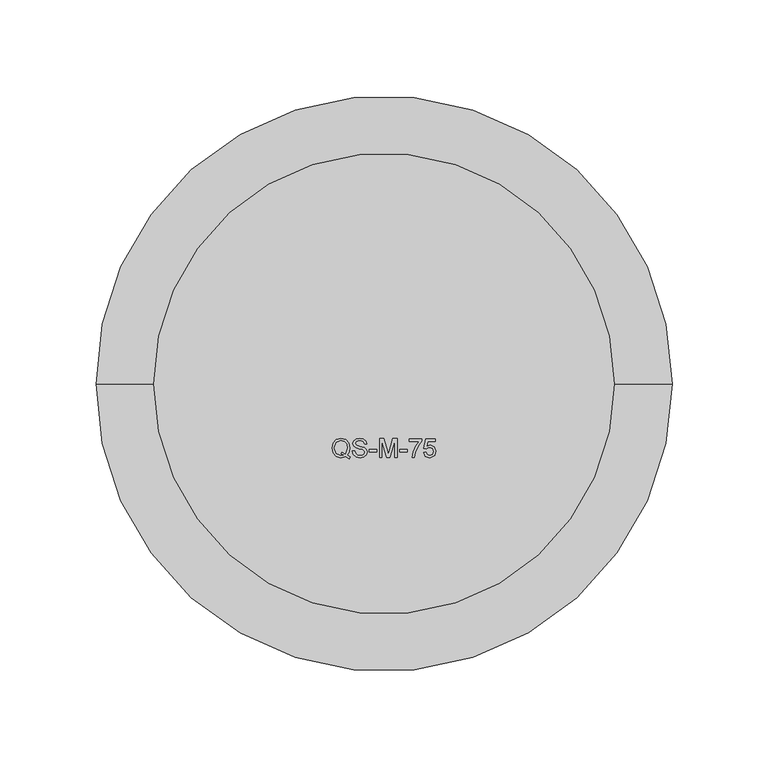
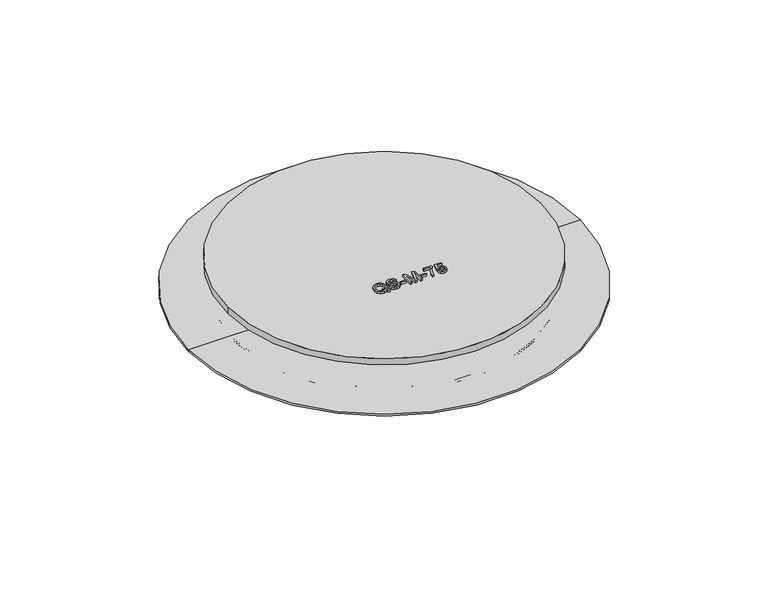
"""IFC4 building model written with IfcOpenShell, lengths in millimetres: sanitary terminal geometry, PAVCO_PVC QS Tragante : QS-M-75-260 Membrana."""

import ifcopenshell
import ifcopenshell.guid

model = None  # the IFC model being written
_history = None  # IfcOwnerHistory: only IFC2X3 demands one
_inside = {}  # id of a spatial element -> (the spatial element, [elements in it])
_under = {}  # id of a project, library or spatial element -> (it, [spatial elements below it])
_declared = {}  # id of a project -> (the project, [libraries it declares])
_typed = {}  # id of a type object -> (the type object, [elements of that type])
_made_of = {}  # id of a material, layer set ... -> (it, [elements and type objects made of it])


def new_model(schema):
    """Start an empty IFC model of exactly this schema.

    Asked for "IFC4X3", IfcOpenShell would pick the latest addendum, in which some entities
    have other attributes; the version numbers below select the first issue.
    IFC2X3 requires an IfcOwnerHistory on every rooted entity: one is made here for all.
    """
    global model, _history
    if schema == "IFC4X3":
        model = ifcopenshell.file(schema_version=(4, 3, 0, 0))
    else:
        model = ifcopenshell.file(schema=schema)
    _inside.clear()
    _under.clear()
    _declared.clear()
    _typed.clear()
    _made_of.clear()
    _history = None
    if model.schema == "IFC2X3":
        org = make("IfcOrganization", Name="unknown")
        user = make(
            "IfcPersonAndOrganization",
            ThePerson=make("IfcPerson", FamilyName="unknown"),
            TheOrganization=org,
        )
        app = make(
            "IfcApplication",
            ApplicationDeveloper=org,
            Version="unknown",
            ApplicationFullName="unknown",
            ApplicationIdentifier="unknown",
        )
        _history = make(
            "IfcOwnerHistory",
            OwningUser=user,
            OwningApplication=app,
            ChangeAction="ADDED",
            CreationDate=0,
        )
    return model


def make(cls, **values):
    """One entity of the class cls with the attributes given. An attribute that is None is left unset."""
    return model.create_entity(
        cls, **{name: value for name, value in values.items() if value is not None}
    )


def rooted(cls, **values):
    """An entity with a GlobalId (a new one), such as an element, a storey or a relation."""
    return make(cls, GlobalId=ifcopenshell.guid.new(), OwnerHistory=_history, **values)


def si_unit(unit_type, name, prefix=None):
    """IfcSIUnit, for example si_unit("LENGTHUNIT", "METRE", prefix="MILLI")."""
    return make("IfcSIUnit", UnitType=unit_type, Prefix=prefix, Name=name)


def assignment(units):
    """IfcUnitAssignment: the units of a project."""
    return None if units is None else make("IfcUnitAssignment", Units=units)


def point(xyz):
    """IfcCartesianPoint."""
    return None if xyz is None else make("IfcCartesianPoint", Coordinates=xyz)


def direction(xyz):
    """IfcDirection."""
    return None if xyz is None else make("IfcDirection", DirectionRatios=xyz)


def frame(location, z_axis=None, x_axis=None):
    """IfcAxis2Placement3D, a coordinate frame: its origin and axes. An axis left out is left unset."""
    return make(
        "IfcAxis2Placement3D",
        Location=point(location),
        Axis=direction(z_axis),
        RefDirection=direction(x_axis),
    )


def frame_2d(location, x_axis=None):
    """IfcAxis2Placement2D, a coordinate frame in the plane: its origin and x axis."""
    return make(
        "IfcAxis2Placement2D", Location=point(location), RefDirection=direction(x_axis)
    )


def origin():
    """The frame at (0, 0, 0) with its axes left unset."""
    return frame((0.0, 0.0, 0.0))


def origin_2d():
    """The frame at (0, 0) in the plane with its x axis left unset."""
    return frame_2d((0.0, 0.0))


def place(relative_to, where):
    """IfcLocalPlacement: puts the frame where relative to a parent placement (None: the world)."""
    return make(
        "IfcLocalPlacement", PlacementRelTo=relative_to, RelativePlacement=where
    )


def context(
    kind, dimensions, precision=None, world=None, true_north=None, identifier=None
):
    """IfcGeometricRepresentationContext, for example the 3D "Model" context."""
    return make(
        "IfcGeometricRepresentationContext",
        ContextIdentifier=identifier,
        ContextType=kind,
        CoordinateSpaceDimension=dimensions,
        Precision=precision,
        WorldCoordinateSystem=world,
        TrueNorth=true_north,
    )


def project(units=None, contexts=None):
    """IfcProject with its units and contexts."""
    return rooted(
        "IfcProject",
        Name="project",
        RepresentationContexts=contexts,
        UnitsInContext=assignment(units),
    )


def spatial(cls, under=None, at=None, **own):
    """A site, building, storey or space (cls), placed at a placement, below another one or the project."""
    s = rooted(cls, ObjectPlacement=at, **own)
    if under is not None:
        _under.setdefault(under.id(), (under, []))[1].append(s)
    return s


def polyline(points):
    """IfcPolyline through the points."""
    return make("IfcPolyline", Points=[point(p) for p in points])


def circle_curve(where, radius):
    """IfcCircle in the frame where."""
    return make("IfcCircle", Position=where, Radius=radius)


def ellipse_curve(where, semi_axis1, semi_axis2):
    """IfcEllipse in the frame where."""
    return make(
        "IfcEllipse", Position=where, SemiAxis1=semi_axis1, SemiAxis2=semi_axis2
    )


def trimmed(basis, trim1, trim2, sense, master):
    """IfcTrimmedCurve: the piece of a basis curve between two trims."""
    return make(
        "IfcTrimmedCurve",
        BasisCurve=basis,
        Trim1=trim1,
        Trim2=trim2,
        SenseAgreement=sense,
        MasterRepresentation=master,
    )


def segment(curve, same_sense, transition):
    """IfcCompositeCurveSegment."""
    return make(
        "IfcCompositeCurveSegment",
        Transition=transition,
        SameSense=same_sense,
        ParentCurve=curve,
    )


def composite_curve(segments, self_intersect=None):
    """IfcCompositeCurve: segments joined end to end."""
    return make("IfcCompositeCurve", Segments=segments, SelfIntersect=self_intersect)


def outline(outer, holes=None, kind="AREA"):
    """IfcArbitraryClosedProfileDef: a profile drawn as a closed curve; with holes, ...WithVoids."""
    if holes is None:
        return make("IfcArbitraryClosedProfileDef", ProfileType=kind, OuterCurve=outer)
    return make(
        "IfcArbitraryProfileDefWithVoids",
        ProfileType=kind,
        OuterCurve=outer,
        InnerCurves=holes,
    )


def extrude(swept, where, along, depth):
    """IfcExtrudedAreaSolid: the profile swept, set in the frame where, extruded along a direction by depth."""
    return make(
        "IfcExtrudedAreaSolid",
        SweptArea=swept,
        Position=where,
        ExtrudedDirection=direction(along),
        Depth=depth,
    )


def shape(context_of_items, identifier, shape_type, items):
    """IfcShapeRepresentation: the items that make up one representation, for example the "Body"."""
    return make(
        "IfcShapeRepresentation",
        ContextOfItems=context_of_items,
        RepresentationIdentifier=identifier,
        RepresentationType=shape_type,
        Items=items,
    )


def source(mapping_origin, context_of_items, identifier, shape_type, items):
    """IfcRepresentationMap: a shape defined once, which mapped items show again and again."""
    return make(
        "IfcRepresentationMap",
        MappingOrigin=mapping_origin,
        MappedRepresentation=shape(context_of_items, identifier, shape_type, items),
    )


def transform(
    local_origin,
    x_axis=None,
    y_axis=None,
    z_axis=None,
    scale=None,
    scale2=None,
    scale3=None,
    uniform=True,
):
    """IfcCartesianTransformationOperator3D, or its non-uniform kind. x_axis, y_axis, z_axis: its Axis1, 2, 3."""
    if uniform:
        return make(
            "IfcCartesianTransformationOperator3D",
            Axis1=direction(x_axis),
            Axis2=direction(y_axis),
            LocalOrigin=point(local_origin),
            Scale=scale,
            Axis3=direction(z_axis),
        )
    return make(
        "IfcCartesianTransformationOperator3DnonUniform",
        Axis1=direction(x_axis),
        Axis2=direction(y_axis),
        LocalOrigin=point(local_origin),
        Scale=scale,
        Axis3=direction(z_axis),
        Scale2=scale2,
        Scale3=scale3,
    )


def mapped(mapping_source, mapping_target):
    """IfcMappedItem: shows the shape of a source again, moved by a transform."""
    return make(
        "IfcMappedItem", MappingSource=mapping_source, MappingTarget=mapping_target
    )


def made_of(thing, what):
    """Note that an element or type object is made of a material, layer set ...; save() writes the relation."""
    if what is not None:
        _made_of.setdefault(what.id(), (what, []))[1].append(thing)
    return thing


def element(
    cls,
    number,
    at=None,
    inside=None,
    cuts=None,
    type_object=None,
    material=None,
    context=None,
    identifier="Body",
    shape_type=None,
    held_by="IfcProductDefinitionShape",
    body=None,
    shapes=None,
    **own,
):
    """One element of the class cls, such as IfcWall. Its Tag is "e" and its number.

    at: its placement. inside: the storey or other place that contains it. cuts: it is an
    opening in that element (IfcRelVoidsElement). A single representation is given by context,
    identifier, shape_type and body (its items); several are given by shapes. held_by: the class
    of the entity that holds the representations. save() writes the other relations.
    """
    e = rooted(cls, Tag="e%d" % number, ObjectPlacement=at, **own)
    if body is not None:
        shapes = [shape(context, identifier, shape_type, body)]
    if shapes is not None:
        e.Representation = make(held_by, Representations=shapes)
    if inside is not None:
        _inside.setdefault(inside.id(), (inside, []))[1].append(e)
    if cuts is not None:
        rooted(
            "IfcRelVoidsElement", RelatingBuildingElement=cuts, RelatedOpeningElement=e
        )
    if type_object is not None:
        _typed.setdefault(type_object.id(), (type_object, []))[1].append(e)
    return made_of(e, material)


def aggregate(whole, parts):
    """IfcRelAggregates: a whole, such as a stair, and the parts it consists of."""
    return rooted("IfcRelAggregates", RelatingObject=whole, RelatedObjects=parts)


def save(model, path):
    """Write the relations noted so far, then the file.

    IfcRelAggregates (storeys below a building ...), IfcRelContainedInSpatialStructure (elements
    in a storey), IfcRelDefinesByType, IfcRelAssociatesMaterial and IfcRelDeclares: one each for
    every whole, place, type object, material and project.
    """
    for whole, parts in _under.values():
        aggregate(whole, parts)
    for where, things in _inside.values():
        rooted(
            "IfcRelContainedInSpatialStructure",
            RelatedElements=things,
            RelatingStructure=where,
        )
    for kind, things in _typed.values():
        rooted("IfcRelDefinesByType", RelatedObjects=things, RelatingType=kind)
    for what, things in _made_of.values():
        rooted("IfcRelAssociatesMaterial", RelatedObjects=things, RelatingMaterial=what)
    for by, libraries in _declared.values():
        rooted("IfcRelDeclares", RelatingContext=by, RelatedDefinitions=libraries)
    model.write(path)


def plane_surface(at):
    """IfcPlane: the flat surface through the origin of the frame at, square to its z axis."""
    return make("IfcPlane", Position=at)


def cylinder_surface(at, radius):
    """IfcCylindricalSurface: all points at the distance radius from the z axis of the frame at."""
    return make("IfcCylindricalSurface", Position=at, Radius=radius)


def revolved_surface(curve, axis_point, axis_direction):
    """IfcSurfaceOfRevolution: the curve turned about the line through axis_point along axis_direction."""
    return make(
        "IfcSurfaceOfRevolution",
        SweptCurve=make("IfcArbitraryOpenProfileDef", ProfileType="CURVE", Curve=curve),
        AxisPosition=make("IfcAxis1Placement", Location=point(axis_point), Axis=direction(axis_direction)),
    )


def advanced_brep(points, edges, surfaces, faces):
    """IfcAdvancedBrep: a solid bounded by faces that lie on surfaces and meet in shared edges.

    An edge is (start, end): straight between two places in points (the first is 0);
    or (start, end, curve); or (start, end, curve, False) where it runs against its curve.
    A face is (place in surfaces, loops), or (place, loops, False) where it looks against
    its surface's normal. A loop lists edges by number (the first is 1), with a minus sign
    where the edge is run from its end to its start. The first loop is the outer one.
    """
    corners = [point(p) for p in points]
    vertices = [make("IfcVertexPoint", VertexGeometry=c) for c in corners]
    made = []
    for start, end, *more in edges:
        made.append(
            make(
                "IfcEdgeCurve",
                EdgeStart=vertices[start],
                EdgeEnd=vertices[end],
                EdgeGeometry=more[0] if more else make("IfcPolyline", Points=[corners[start], corners[end]]),
                SameSense=more[1] if len(more) > 1 else True,
            )
        )
    hull = []
    for where, loops, *sense in faces:
        bounds = []
        for j, loop in enumerate(loops):
            ring = [make("IfcOrientedEdge", EdgeElement=made[abs(k) - 1], Orientation=k > 0) for k in loop]
            bounds.append(
                make(
                    "IfcFaceOuterBound" if j == 0 else "IfcFaceBound",
                    Bound=make("IfcEdgeLoop", EdgeList=ring),
                    Orientation=True,
                )
            )
        hull.append(make("IfcAdvancedFace", Bounds=bounds, FaceSurface=surfaces[where], SameSense=sense[0] if sense else True))
    return make("IfcAdvancedBrep", Outer=make("IfcClosedShell", CfsFaces=hull))


def sanitary_terminal_6ff95ebf(model_context):
    return source(origin(), model_context, "Body", "SolidModel", [
        advanced_brep(
        [(119.0099801, 0.0, -9.5), (-119.0099801, 0.0, -9.5), (-150.0, 0.0, -9.5), (150.0, 0.0, -9.5), (114.8509849, 0.0, -13.6589951), (-114.8509849, 0.0, -13.6589951), (114.01, 0.0, -14.4999801), (-114.01, 0.0, -14.4999801), (59.3880082, 0.0, -14.4999801), (-59.3880082, 0.0, -14.4999801), (54.9479671, 0.0, -18.9400212), (-54.9479671, 0.0, -18.9400212), (54.9479671, 0.0, -30.9400212), (-54.9479671, 0.0, -30.9400212), (54.3880082, 0.0, -31.4999801), (-54.3880082, 0.0, -31.4999801), (40.0, 0.0, -31.4999801), (-40.0, 0.0, -31.4999801), (40.0, 0.0, -39.9999801), (-40.0, 0.0, -39.9999801), (38.15, 0.0, -39.9999801), (-38.15, 0.0, -39.9999801), (38.15, 0.0, -66.29805), (-38.15, 0.0, -66.29805), (36.15, 0.0, -64.9999801), (-36.15, 0.0, -64.9999801), (-150.0, 0.0, -8.0), (150.0, 0.0, -8.0), (0.0, 0.0, -64.9999801), (0.0, 0.0, -8.0)],
        [
            (0, 1, circle_curve(frame((0.0, 0.0, -9.5), z_axis=(0.0, 0.0, 1.0), x_axis=(-1.0, 0.0, 0.0)), 119.0099801)),
            (1, 2),
            (2, 3, circle_curve(frame((0.0, 0.0, -9.5), z_axis=(0.0, 0.0, -1.0), x_axis=(-1.0, 0.0, 0.0)), 150.0)),
            (3, 0),
            (1, 0, circle_curve(frame((0.0, 0.0, -9.5), z_axis=(0.0, 0.0, 1.0), x_axis=(-1.0, 0.0, 0.0)), 119.0099801)),
            (3, 2, circle_curve(frame((0.0, 0.0, -9.5), z_axis=(0.0, 0.0, -1.0), x_axis=(-1.0, 0.0, 0.0)), 150.0)),
            (4, 5, circle_curve(frame((0.0, 0.0, -13.6589951), z_axis=(0.0, 0.0, 1.0), x_axis=(-1.0, 0.0, 0.0)), 114.8509849)),
            (5, 1, circle_curve(frame((-119.0099801, 0.0, -13.6589951), z_axis=(0.0, -1.0, 0.0), x_axis=(1.0, 0.0, 0.0)), 4.1589951)),
            (0, 4, circle_curve(frame((119.0099801, 0.0, -13.6589951), z_axis=(0.0, -1.0, 0.0), x_axis=(-1.0, 0.0, 0.0)), 4.1589951)),
            (5, 4, circle_curve(frame((0.0, 0.0, -13.6589951), z_axis=(0.0, 0.0, 1.0), x_axis=(-1.0, 0.0, 0.0)), 114.8509849)),
            (6, 7, circle_curve(frame((0.0, 0.0, -14.4999801), z_axis=(0.0, 0.0, 1.0), x_axis=(-1.0, 0.0, 0.0)), 114.01)),
            (7, 5, circle_curve(frame((-114.01, 0.0, -13.6589951), z_axis=(0.0, 1.0, 0.0), x_axis=(1.0, 0.0, 0.0)), 0.8409849)),
            (4, 6, circle_curve(frame((114.01, 0.0, -13.6589951), z_axis=(0.0, 1.0, 0.0), x_axis=(-1.0, 0.0, 0.0)), 0.8409849)),
            (7, 6, circle_curve(frame((0.0, 0.0, -14.4999801), z_axis=(0.0, 0.0, 1.0), x_axis=(-1.0, 0.0, 0.0)), 114.01)),
            (8, 9, circle_curve(frame((0.0, 0.0, -14.4999801), z_axis=(0.0, 0.0, 1.0), x_axis=(-1.0, 0.0, 0.0)), 59.3880082)),
            (9, 7),
            (6, 8),
            (9, 8, circle_curve(frame((0.0, 0.0, -14.4999801), z_axis=(0.0, 0.0, 1.0), x_axis=(-1.0, 0.0, 0.0)), 59.3880082)),
            (10, 11, circle_curve(frame((0.0, 0.0, -18.9400212), z_axis=(0.0, 0.0, 1.0), x_axis=(-1.0, 0.0, 0.0)), 54.9479671)),
            (11, 9, circle_curve(frame((-59.3880082, 0.0, -18.9400212), z_axis=(0.0, -1.0, 0.0), x_axis=(1.0, 0.0, 0.0)), 4.4400412)),
            (8, 10, circle_curve(frame((59.3880082, 0.0, -18.9400212), z_axis=(0.0, -1.0, 0.0), x_axis=(-1.0, 0.0, 0.0)), 4.4400412)),
            (11, 10, circle_curve(frame((0.0, 0.0, -18.9400212), z_axis=(0.0, 0.0, 1.0), x_axis=(-1.0, 0.0, 0.0)), 54.9479671)),
            (12, 13, circle_curve(frame((0.0, 0.0, -30.9400212), z_axis=(0.0, 0.0, 1.0), x_axis=(-1.0, 0.0, 0.0)), 54.9479671)),
            (13, 11),
            (10, 12),
            (13, 12, circle_curve(frame((0.0, 0.0, -30.9400212), z_axis=(0.0, 0.0, 1.0), x_axis=(-1.0, 0.0, 0.0)), 54.9479671)),
            (14, 15, circle_curve(frame((0.0, 0.0, -31.4999801), z_axis=(0.0, 0.0, 1.0), x_axis=(-1.0, 0.0, 0.0)), 54.3880082)),
            (15, 13, circle_curve(frame((-54.3880082, 0.0, -30.9400212), z_axis=(0.0, 1.0, 0.0), x_axis=(1.0, 0.0, 0.0)), 0.5599588)),
            (12, 14, circle_curve(frame((54.3880082, 0.0, -30.9400212), z_axis=(0.0, 1.0, 0.0), x_axis=(-1.0, 0.0, 0.0)), 0.5599588)),
            (15, 14, circle_curve(frame((0.0, 0.0, -31.4999801), z_axis=(0.0, 0.0, 1.0), x_axis=(-1.0, 0.0, 0.0)), 54.3880082)),
            (16, 17, circle_curve(frame((0.0, 0.0, -31.4999801), z_axis=(0.0, 0.0, 1.0), x_axis=(-1.0, 0.0, 0.0)), 40.0)),
            (17, 15),
            (14, 16),
            (17, 16, circle_curve(frame((0.0, 0.0, -31.4999801), z_axis=(0.0, 0.0, 1.0), x_axis=(-1.0, 0.0, 0.0)), 40.0)),
            (18, 19, circle_curve(frame((0.0, 0.0, -39.9999801), z_axis=(0.0, 0.0, 1.0), x_axis=(-1.0, 0.0, 0.0)), 40.0)),
            (19, 17),
            (16, 18),
            (19, 18, circle_curve(frame((0.0, 0.0, -39.9999801), z_axis=(0.0, 0.0, 1.0), x_axis=(-1.0, 0.0, 0.0)), 40.0)),
            (20, 21, circle_curve(frame((0.0, 0.0, -39.9999801), z_axis=(0.0, 0.0, 1.0), x_axis=(-1.0, 0.0, 0.0)), 38.15)),
            (21, 19),
            (18, 20),
            (21, 20, circle_curve(frame((0.0, 0.0, -39.9999801), z_axis=(0.0, 0.0, 1.0), x_axis=(-1.0, 0.0, 0.0)), 38.15)),
            (22, 23, circle_curve(frame((0.0, 0.0, -66.29805), z_axis=(0.0, 0.0, 1.0), x_axis=(-1.0, 0.0, 0.0)), 38.15)),
            (23, 21),
            (20, 22),
            (23, 22, circle_curve(frame((0.0, 0.0, -66.29805), z_axis=(0.0, 0.0, 1.0), x_axis=(-1.0, 0.0, 0.0)), 38.15)),
            (24, 25, circle_curve(frame((0.0, 0.0, -64.9999801), z_axis=(0.0, 0.0, 1.0), x_axis=(-1.0, 0.0, 0.0)), 36.15)),
            (25, 23),
            (22, 24),
            (25, 24, circle_curve(frame((0.0, 0.0, -64.9999801), z_axis=(0.0, 0.0, 1.0), x_axis=(-1.0, 0.0, 0.0)), 36.15)),
            (2, 26),
            (26, 27, circle_curve(frame((0.0, 0.0, -8.0), z_axis=(0.0, 0.0, -1.0), x_axis=(-1.0, 0.0, 0.0)), 150.0)),
            (27, 3),
            (27, 26, circle_curve(frame((0.0, 0.0, -8.0), z_axis=(0.0, 0.0, -1.0), x_axis=(-1.0, 0.0, 0.0)), 150.0)),
            (28, 25),
            (24, 28),
            (26, 29),
            (29, 27),
        ],
        [
            plane_surface(frame((0.0, 0.0, -9.5), z_axis=(0.0, 0.0, -1.0), x_axis=(-1.0, 0.0, 0.0))),
            revolved_surface(trimmed(ellipse_curve(frame((-119.0099801, 0.0, -13.6589951), z_axis=(0.0, 1.0, 0.0), x_axis=(1.0, 0.0, 0.0)), 4.1589951, 4.1589951), [point((-119.0099801, 0.0, -9.5))], [point((-114.8509849, 0.0, -13.6589951))], True, "CARTESIAN"), (0.0, 0.0, -68.29805), (0.0, 0.0, -1.0)),
            revolved_surface(trimmed(ellipse_curve(frame((-114.01, 0.0, -13.6589951), z_axis=(0.0, -1.0, 0.0), x_axis=(1.0, 0.0, 0.0)), 0.8409849, 0.8409849), [point((-114.8509849, 0.0, -13.6589951))], [point((-114.01, 0.0, -14.4999801))], True, "CARTESIAN"), (0.0, 0.0, -68.29805), (0.0, 0.0, -1.0)),
            plane_surface(frame((0.0, 0.0, -14.4999801), z_axis=(0.0, 0.0, -1.0), x_axis=(-1.0, 0.0, 0.0))),
            revolved_surface(trimmed(ellipse_curve(frame((-59.3880082, 0.0, -18.9400212), z_axis=(0.0, 1.0, 0.0), x_axis=(1.0, 0.0, 0.0)), 4.4400412, 4.4400412), [point((-59.3880082, 0.0, -14.4999801))], [point((-54.9479671, 0.0, -18.9400212))], True, "CARTESIAN"), (0.0, 0.0, -68.29805), (0.0, 0.0, -1.0)),
            cylinder_surface(frame((0.0, 0.0, -68.29805), z_axis=(0.0, 0.0, -1.0), x_axis=(-1.0, 0.0, 0.0)), 54.9479671),
            revolved_surface(trimmed(ellipse_curve(frame((-54.3880082, 0.0, -30.9400212), z_axis=(0.0, -1.0, 0.0), x_axis=(1.0, 0.0, 0.0)), 0.5599588, 0.5599588), [point((-54.9479671, 0.0, -30.9400212))], [point((-54.3880082, 0.0, -31.4999801))], True, "CARTESIAN"), (0.0, 0.0, -68.29805), (0.0, 0.0, -1.0)),
            plane_surface(frame((0.0, 0.0, -31.4999801), z_axis=(0.0, 0.0, -1.0), x_axis=(-1.0, 0.0, 0.0))),
            cylinder_surface(frame((0.0, 0.0, -68.29805), z_axis=(0.0, 0.0, -1.0), x_axis=(-1.0, 0.0, 0.0)), 40.0),
            plane_surface(frame((0.0, 0.0, -39.9999801), z_axis=(0.0, 0.0, -1.0), x_axis=(-1.0, 0.0, 0.0))),
            cylinder_surface(frame((0.0, 0.0, -68.29805), z_axis=(0.0, 0.0, -1.0), x_axis=(-1.0, 0.0, 0.0)), 38.15),
            revolved_surface(polyline([(-38.15, 0.0, -66.29805), (-36.15, 0.0, -64.9999801)]), (0.0, 0.0, -68.29805), (0.0, 0.0, -1.0)),
            cylinder_surface(frame((0.0, 0.0, -68.29805), z_axis=(0.0, 0.0, -1.0), x_axis=(-1.0, 0.0, 0.0)), 150.0),
            plane_surface(frame((0.0, 0.0, -64.9999801), z_axis=(0.0, 0.0, -1.0), x_axis=(-1.0, 0.0, 0.0))),
            plane_surface(frame((0.0, 0.0, -8.0), z_axis=(0.0, 0.0, 1.0), x_axis=(-1.0, 0.0, 0.0))),
        ],
        [
            (0, [[1, 2, 3, 4]]),
            (0, [[5, -4, 6, -2]]),
            (1, [[7, 8, -1, 9]]),
            (1, [[10, -9, -5, -8]]),
            (2, [[11, 12, -7, 13]]),
            (2, [[14, -13, -10, -12]]),
            (3, [[15, 16, -11, 17]]),
            (3, [[18, -17, -14, -16]]),
            (4, [[19, 20, -15, 21]]),
            (4, [[22, -21, -18, -20]]),
            (5, [[23, 24, -19, 25]]),
            (5, [[26, -25, -22, -24]]),
            (6, [[27, 28, -23, 29]]),
            (6, [[30, -29, -26, -28]]),
            (7, [[31, 32, -27, 33]]),
            (7, [[34, -33, -30, -32]]),
            (8, [[35, 36, -31, 37]]),
            (8, [[38, -37, -34, -36]]),
            (9, [[39, 40, -35, 41]]),
            (9, [[42, -41, -38, -40]]),
            (10, [[43, 44, -39, 45]]),
            (10, [[46, -45, -42, -44]]),
            (11, [[47, 48, -43, 49]]),
            (11, [[50, -49, -46, -48]]),
            (12, [[-3, 51, 52, 53]]),
            (12, [[-6, -53, 54, -51]]),
            (13, [[55, -47, 56]]),
            (13, [[-56, -50, -55]]),
            (14, [[-52, 57, 58]]),
            (14, [[-54, -58, -57]]),
        ],
    ),
        extrude(outline(composite_curve([segment(trimmed(circle_curve(origin_2d(), 120.0), [point((120.0, 0.0))], [point((-120.0, 0.0))], False, "CARTESIAN"), True, "CONTINUOUS"), segment(trimmed(circle_curve(origin_2d(), 120.0), [point((-120.0, 0.0))], [point((120.0, 0.0))], False, "CARTESIAN"), True, "CONTINUOUS")], self_intersect=False)), frame((0.0, 0.0, 11.0), z_axis=(0.0, 0.0, 1.0), x_axis=(1.0, 0.0, 0.0)), (0.0, 0.0, 1.0), 5.0),
        extrude(outline(polyline([(-19.2154561, -37.2335081), (-17.6890138, -38.2599504), (-18.0207446, -39.1613927), (-20.0471869, -38.0099504), (-22.4390138, -38.5676427), (-24.8356484, -37.9246139), (-26.4931003, -36.1169216), (-27.0736292, -33.4931235), (-26.4943023, -30.8500947), (-24.8452638, -29.0363927), (-22.451033, -28.4137966), (-20.0411773, -29.0508158), (-18.4053599, -30.8344697), (-17.8428599, -33.4210081), (-18.1842061, -35.5724504), (-19.2154561, -37.2335081)]), holes=[polyline([(-22.1000715, -35.5964889), (-20.2298792, -36.531585), (-19.0736292, -33.4835081), (-19.482283, -31.4630754), (-20.6781965, -30.1217293), (-22.4438215, -29.6445658), (-24.8765138, -30.60971), (-25.8428599, -33.4907197), (-24.8873311, -36.3428831), (-22.4462253, -37.3368735), (-21.1217061, -37.0844697), (-22.4173792, -36.5387966), (-22.1000715, -35.5964889)])]), frame((0.0, 0.0, 16.0), z_axis=(0.0, 0.0, 1.0), x_axis=(1.0, 0.0, 0.0)), (0.0, 0.0, 1.0), 2.0),
        extrude(outline(polyline([(-16.4582446, -35.0291812), (-15.2274753, -35.0291812), (-14.8308407, -36.2611524), (-13.8620907, -37.0399985), (-12.3861292, -37.3368735), (-11.1000715, -37.1121139), (-10.2695426, -36.4943254), (-9.9967061, -35.6686043), (-10.201033, -34.9005754), (-11.0375715, -34.3416812), (-12.8296388, -33.8717293), (-14.7587253, -33.2647581), (-15.8056003, -32.3488927), (-16.1505523, -31.125335), (-15.7238696, -29.7323062), (-14.4774753, -28.7491331), (-12.6529561, -28.4137966), (-10.7058407, -28.7647581), (-9.4077638, -29.7960081), (-8.919783, -31.3368735), (-10.1505523, -31.3368735), (-10.8476676, -30.0724504), (-12.6048792, -29.6445658), (-14.3668984, -30.0676427), (-14.919783, -31.0892774), (-14.5279561, -31.9426427), (-12.5183407, -32.6301427), (-10.3404561, -33.2479312), (-9.1493503, -34.2455274), (-8.7659369, -35.6373543), (-9.2070426, -37.10971), (-10.4762734, -38.1842293), (-12.3380523, -38.5676427), (-14.5363696, -38.1541812), (-15.9269946, -36.9089889), (-16.4582446, -35.0291812)])), frame((0.0, 0.0, 16.0), z_axis=(0.0, 0.0, 1.0), x_axis=(1.0, 0.0, 0.0)), (0.0, 0.0, 1.0), 2.0),
        extrude(outline(polyline([(-7.6890138, -35.4907197), (-7.6890138, -34.2599504), (-3.8428599, -34.2599504), (-3.8428599, -35.4907197), (-7.6890138, -35.4907197)])), frame((0.0, 0.0, 16.0), z_axis=(0.0, 0.0, 1.0), x_axis=(1.0, 0.0, 0.0)), (0.0, 0.0, 1.0), 2.0),
        extrude(outline(polyline([(-2.3043984, -38.4137966), (-2.3043984, -28.5676427), (-0.1866099, -28.5676427), (1.8278131, -35.5075466), (2.2340631, -36.9570658), (2.673967, -35.3873543), (4.6547362, -28.5676427), (6.7725247, -28.5676427), (6.7725247, -38.4137966), (5.5417554, -38.4137966), (5.5417554, -29.798412), (3.0681977, -38.4137966), (1.3999285, -38.4137966), (-1.0736292, -29.798412), (-1.0736292, -38.4137966), (-2.3043984, -38.4137966)])), frame((0.0, 0.0, 16.0), z_axis=(0.0, 0.0, 1.0), x_axis=(1.0, 0.0, 0.0)), (0.0, 0.0, 1.0), 2.0),
        extrude(outline(polyline([(8.1571401, -35.4907197), (8.1571401, -34.2599504), (12.0032939, -34.2599504), (12.0032939, -35.4907197), (8.1571401, -35.4907197)])), frame((0.0, 0.0, 16.0), z_axis=(0.0, 0.0, 1.0), x_axis=(1.0, 0.0, 0.0)), (0.0, 0.0, 1.0), 2.0),
        extrude(outline(polyline([(13.080217, -29.9522581), (13.080217, -28.7214889), (19.5417554, -28.7214889), (19.5417554, -29.7166812), (17.7088227, -32.3645177), (16.3061785, -35.7383158), (15.8494477, -38.4137966), (14.6186785, -38.4137966), (15.1078612, -35.6373543), (16.4504093, -32.4991331), (18.3109862, -29.9522581), (13.080217, -29.9522581)])), frame((0.0, 0.0, 16.0), z_axis=(0.0, 0.0, 1.0), x_axis=(1.0, 0.0, 0.0)), (0.0, 0.0, 1.0), 2.0),
        extrude(outline(polyline([(20.6186785, -35.798412), (21.8494477, -35.6445658), (22.4696401, -36.9125947), (23.7556977, -37.3368735), (25.298967, -36.7467293), (25.8494477, -35.1806235), (25.3338227, -33.719085), (23.7749285, -33.1830274), (22.6943997, -33.3969697), (22.0032939, -33.9522581), (20.7725247, -33.798412), (21.8494477, -28.7214889), (26.6186785, -28.7214889), (26.6186785, -29.9522581), (22.8446401, -29.9522581), (22.3181977, -32.6637966), (24.1186785, -31.9522581), (26.2232458, -32.8344697), (27.080217, -35.1037004), (26.3085824, -37.3873543), (23.7508901, -38.5676427), (21.5790151, -37.8092293), (20.6186785, -35.798412)])), frame((0.0, 0.0, 16.0), z_axis=(0.0, 0.0, 1.0), x_axis=(1.0, 0.0, 0.0)), (0.0, 0.0, 1.0), 2.0),
    ])


if __name__ == "__main__":
    model = new_model("IFC4")
    model_context = context("Model", 3, world=origin())
    ifc_project = project(units=[si_unit("LENGTHUNIT", "METRE", prefix="MILLI")], contexts=[model_context])
    site = spatial("IfcSite", under=ifc_project)
    building = spatial("IfcBuilding", under=site)
    placement = place(None, origin())
    sanitary_terminal_shape = sanitary_terminal_6ff95ebf(model_context)
    element("IfcSanitaryTerminal", 1, ObjectType="PAVCO_PVC QS Tragante : QS-M-75-260 Membrana", at=placement, inside=building, context=model_context, shape_type="MappedRepresentation", body=[
        mapped(sanitary_terminal_shape, transform((0.0, 0.0, 0.0), x_axis=(1.0, 0.0, 0.0), y_axis=(0.0, 1.0, 0.0), z_axis=(0.0, 0.0, 1.0))),
    ])
    save(model, "model.ifc")
